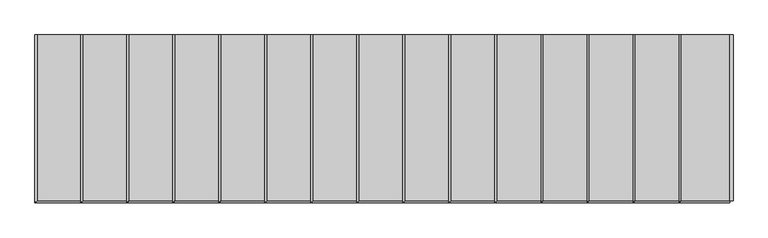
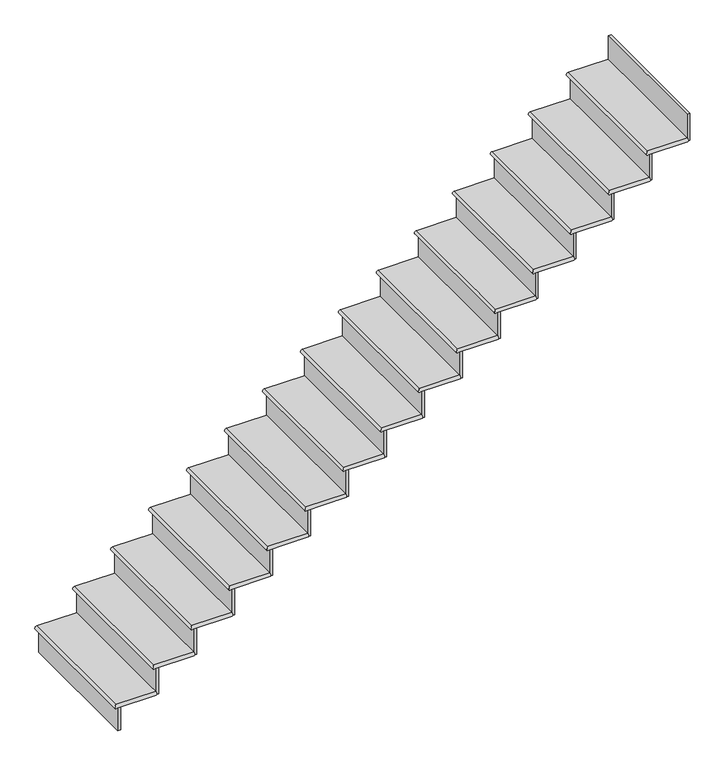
"""IFC4 building model written with IfcOpenShell, lengths in millimetres: stair flight geometry."""

from ifc_helpers import new_model, si_unit, frame, origin, place, context, project, spatial, circle_curve, ellipse_curve, faceted_brep, source, transform, mapped, element, save
from ifc_brep_helpers import plane_surface, cylinder_surface, advanced_brep


def stair_flight_f94ab1f9(model_context):
    return source(origin(), model_context, "Body", "SolidModel", [
        advanced_brep(
        [(-27218.1481446, 896.1568972, 165.1), (-27218.1481446, 896.1568972, 190.5), (-27218.1481446, 1810.5568972, 190.5), (-27218.1481446, 1810.5568972, 165.1), (-26951.4481446, 1810.5568972, 190.5), (-26951.4481446, 896.1568972, 190.5), (-26951.4481446, 1810.5568972, 165.1), (-26951.4481446, 896.1568972, 165.1)],
        [
            (0, 1, ellipse_curve(frame((-27218.1481446, 896.1568972, 177.8), z_axis=(-0.7071067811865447, 0.7071067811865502, 0.0), x_axis=(-0.7071067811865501, -0.7071067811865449, 0.0)), 17.9605122, 12.7)),
            (1, 2),
            (2, 3, circle_curve(frame((-27218.1481446, 1810.5568972, 177.8), z_axis=(0.0, -1.0, 0.0), x_axis=(1.0, 0.0, 0.0)), 12.7)),
            (3, 0),
            (4, 2),
            (1, 5),
            (5, 4),
            (3, 6),
            (6, 7),
            (7, 0),
            (4, 6),
            (5, 7, circle_curve(frame((-26951.4481446, 896.1568972, 177.8), z_axis=(1.0, 0.0, 0.0), x_axis=(0.0, 1.0, 0.0)), 12.7)),
        ],
        [
            cylinder_surface(frame((-27218.1481446, 896.1568972, 177.8), z_axis=(0.0, -1.0, 0.0), x_axis=(1.0, 0.0, 0.0)), 12.7),
            plane_surface(frame((-27230.8481446, 1810.5568972, 190.5), z_axis=(0.0, 0.0, 1.0), x_axis=(-1.0, 0.0, 0.0))),
            plane_surface(frame((-27230.8481446, 1810.5568972, 165.1), z_axis=(0.0, 0.0, -1.0), x_axis=(1.0, 0.0, 0.0))),
            plane_surface(frame((-26951.4481446, 1810.5568972, 190.5), z_axis=(0.0, 1.0, 0.0), x_axis=(0.0, 0.0, -1.0))),
            plane_surface(frame((-26951.4481446, 896.1568972, 190.5), z_axis=(1.0, 0.0, 0.0), x_axis=(0.0, 0.0, -1.0))),
            cylinder_surface(frame((-26951.4481446, 896.1568972, 177.8), z_axis=(1.0, 0.0, 0.0), x_axis=(0.0, 1.0, 0.0)), 12.7),
        ],
        [
            (0, [[1, 2, 3, 4]]),
            (1, [[5, -2, 6, 7]]),
            (2, [[8, 9, 10, -4]]),
            (3, [[-5, 11, -8, -3]]),
            (4, [[-7, 12, -9, -11]]),
            (5, [[-12, -6, -1, -10]]),
        ],
    ),
        faceted_brep([(-27205.4481446, 896.1568972, 165.1), (-27205.4481446, 896.1568972, 0.0), (-27186.3981446, 896.1568972, 0.0), (-27186.3981446, 896.1568972, 165.1), (-27205.4481446, 1810.5568972, 165.1), (-27186.3981446, 1810.5568972, 165.1), (-27186.3981446, 1810.5568972, 0.0), (-27205.4481446, 1810.5568972, 0.0)], [[[0, 1, 2, 3]], [[4, 5, 6, 7]], [[1, 0, 4, 7]], [[2, 1, 7, 6]], [[3, 2, 6, 5]], [[0, 3, 5, 4]]]),
        faceted_brep([(-26951.4481446, 896.1568972, 355.6), (-26951.4481446, 896.1568972, 165.1), (-26932.3981446, 896.1568972, 165.1), (-26932.3981446, 896.1568972, 355.6), (-26951.4481446, 1810.5568972, 355.6), (-26932.3981446, 1810.5568972, 355.6), (-26932.3981446, 1810.5568972, 165.1), (-26951.4481446, 1810.5568972, 165.1)], [[[0, 1, 2, 3]], [[4, 5, 6, 7]], [[1, 0, 4, 7]], [[2, 1, 7, 6]], [[3, 2, 6, 5]], [[0, 3, 5, 4]]]),
        advanced_brep(
        [(-26697.4481446, 1810.5568972, 381.0), (-26964.1481446, 1810.5568972, 381.0), (-26964.1481446, 896.1568972, 381.0), (-26697.4481446, 896.1568972, 381.0), (-26964.1481446, 1810.5568972, 355.6), (-26697.4481446, 1810.5568972, 355.6), (-26697.4481446, 896.1568972, 355.6), (-26964.1481446, 896.1568972, 355.6)],
        [
            (0, 1),
            (1, 2),
            (2, 3),
            (3, 0),
            (4, 5),
            (5, 6),
            (6, 7),
            (7, 4),
            (0, 5),
            (4, 1, circle_curve(frame((-26964.1481446, 1810.5568972, 368.3), z_axis=(0.0, 1.0, 0.0), x_axis=(1.0, 0.0, 0.0)), 12.7)),
            (3, 6, circle_curve(frame((-26697.4481446, 896.1568972, 368.3), z_axis=(1.0, 0.0, 0.0), x_axis=(0.0, 1.0, 0.0)), 12.7)),
            (7, 2, ellipse_curve(frame((-26964.1481446, 896.1568972, 368.3), z_axis=(-0.7071067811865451, 0.7071067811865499, 0.0), x_axis=(-0.7071067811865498, -0.7071067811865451, 0.0)), 17.9605122, 12.7)),
        ],
        [
            plane_surface(frame((-27230.8481446, 1810.5568972, 381.0), z_axis=(0.0, 0.0, 1.0), x_axis=(-1.0, 0.0, 0.0))),
            plane_surface(frame((-27230.8481446, 1810.5568972, 355.6), z_axis=(0.0, 0.0, -1.0), x_axis=(1.0, 0.0, 0.0))),
            plane_surface(frame((-26697.4481446, 1810.5568972, 381.0), z_axis=(0.0, 1.0, 0.0), x_axis=(0.0, 0.0, -1.0))),
            plane_surface(frame((-26697.4481446, 896.1568972, 381.0), z_axis=(1.0, 0.0, 0.0), x_axis=(0.0, 0.0, -1.0))),
            cylinder_surface(frame((-26964.1481446, 896.1568972, 368.3), z_axis=(0.0, -1.0, 0.0), x_axis=(1.0, 0.0, 0.0)), 12.7),
            cylinder_surface(frame((-26697.4481446, 896.1568972, 368.3), z_axis=(1.0, 0.0, 0.0), x_axis=(0.0, 1.0, 0.0)), 12.7),
        ],
        [
            (0, [[1, 2, 3, 4]]),
            (1, [[5, 6, 7, 8]]),
            (2, [[-1, 9, -5, 10]]),
            (3, [[-4, 11, -6, -9]]),
            (4, [[12, -2, -10, -8]]),
            (5, [[-11, -3, -12, -7]]),
        ],
    ),
        faceted_brep([(-26697.4481446, 896.1568972, 546.1), (-26697.4481446, 896.1568972, 355.6), (-26678.3981446, 896.1568972, 355.6), (-26678.3981446, 896.1568972, 546.1), (-26697.4481446, 1810.5568972, 546.1), (-26678.3981446, 1810.5568972, 546.1), (-26678.3981446, 1810.5568972, 355.6), (-26697.4481446, 1810.5568972, 355.6)], [[[0, 1, 2, 3]], [[4, 5, 6, 7]], [[1, 0, 4, 7]], [[2, 1, 7, 6]], [[3, 2, 6, 5]], [[0, 3, 5, 4]]]),
        advanced_brep(
        [(-26443.4481446, 1810.5568972, 571.5), (-26710.1481446, 1810.5568972, 571.5), (-26710.1481446, 896.1568972, 571.5), (-26443.4481446, 896.1568972, 571.5), (-26710.1481446, 1810.5568972, 546.1), (-26443.4481446, 1810.5568972, 546.1), (-26443.4481446, 896.1568972, 546.1), (-26710.1481446, 896.1568972, 546.1)],
        [
            (0, 1),
            (1, 2),
            (2, 3),
            (3, 0),
            (4, 5),
            (5, 6),
            (6, 7),
            (7, 4),
            (0, 5),
            (4, 1, circle_curve(frame((-26710.1481446, 1810.5568972, 558.8), z_axis=(0.0, 1.0, 0.0), x_axis=(1.0, 0.0, 0.0)), 12.7)),
            (3, 6, circle_curve(frame((-26443.4481446, 896.1568972, 558.8), z_axis=(1.0, 0.0, 0.0), x_axis=(0.0, 1.0, 0.0)), 12.7)),
            (7, 2, ellipse_curve(frame((-26710.1481446, 896.1568972, 558.8), z_axis=(-0.7071067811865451, 0.7071067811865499, 0.0), x_axis=(-0.7071067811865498, -0.7071067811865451, 0.0)), 17.9605122, 12.7)),
        ],
        [
            plane_surface(frame((-26976.8481446, 1810.5568972, 571.5), z_axis=(0.0, 0.0, 1.0), x_axis=(-1.0, 0.0, 0.0))),
            plane_surface(frame((-26976.8481446, 1810.5568972, 546.1), z_axis=(0.0, 0.0, -1.0), x_axis=(1.0, 0.0, 0.0))),
            plane_surface(frame((-26443.4481446, 1810.5568972, 571.5), z_axis=(0.0, 1.0, 0.0), x_axis=(0.0, 0.0, -1.0))),
            plane_surface(frame((-26443.4481446, 896.1568972, 571.5), z_axis=(1.0, 0.0, 0.0), x_axis=(0.0, 0.0, -1.0))),
            cylinder_surface(frame((-26710.1481446, 896.1568972, 558.8), z_axis=(0.0, -1.0, 0.0), x_axis=(1.0, 0.0, 0.0)), 12.7),
            cylinder_surface(frame((-26443.4481446, 896.1568972, 558.8), z_axis=(1.0, 0.0, 0.0), x_axis=(0.0, 1.0, 0.0)), 12.7),
        ],
        [
            (0, [[1, 2, 3, 4]]),
            (1, [[5, 6, 7, 8]]),
            (2, [[-1, 9, -5, 10]]),
            (3, [[-4, 11, -6, -9]]),
            (4, [[12, -2, -10, -8]]),
            (5, [[-11, -3, -12, -7]]),
        ],
    ),
        faceted_brep([(-26443.4481446, 896.1568972, 736.6), (-26443.4481446, 896.1568972, 546.1), (-26424.3981446, 896.1568972, 546.1), (-26424.3981446, 896.1568972, 736.6), (-26443.4481446, 1810.5568972, 736.6), (-26424.3981446, 1810.5568972, 736.6), (-26424.3981446, 1810.5568972, 546.1), (-26443.4481446, 1810.5568972, 546.1)], [[[0, 1, 2, 3]], [[4, 5, 6, 7]], [[1, 0, 4, 7]], [[2, 1, 7, 6]], [[3, 2, 6, 5]], [[0, 3, 5, 4]]]),
        advanced_brep(
        [(-26189.4481446, 1810.5568972, 762.0), (-26456.1481446, 1810.5568972, 762.0), (-26456.1481446, 896.1568972, 762.0), (-26189.4481446, 896.1568972, 762.0), (-26456.1481446, 1810.5568972, 736.6), (-26189.4481446, 1810.5568972, 736.6), (-26189.4481446, 896.1568972, 736.6), (-26456.1481446, 896.1568972, 736.6)],
        [
            (0, 1),
            (1, 2),
            (2, 3),
            (3, 0),
            (4, 5),
            (5, 6),
            (6, 7),
            (7, 4),
            (0, 5),
            (4, 1, circle_curve(frame((-26456.1481446, 1810.5568972, 749.3), z_axis=(0.0, 1.0, 0.0), x_axis=(1.0, 0.0, 0.0)), 12.7)),
            (3, 6, circle_curve(frame((-26189.4481446, 896.1568972, 749.3), z_axis=(1.0, 0.0, 0.0), x_axis=(0.0, 1.0, 0.0)), 12.7)),
            (7, 2, ellipse_curve(frame((-26456.1481446, 896.1568972, 749.3), z_axis=(-0.7071067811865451, 0.7071067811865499, 0.0), x_axis=(-0.7071067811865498, -0.7071067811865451, 0.0)), 17.9605122, 12.7)),
        ],
        [
            plane_surface(frame((-26722.8481446, 1810.5568972, 762.0), z_axis=(0.0, 0.0, 1.0), x_axis=(-1.0, 0.0, 0.0))),
            plane_surface(frame((-26722.8481446, 1810.5568972, 736.6), z_axis=(0.0, 0.0, -1.0), x_axis=(1.0, 0.0, 0.0))),
            plane_surface(frame((-26189.4481446, 1810.5568972, 762.0), z_axis=(0.0, 1.0, 0.0), x_axis=(0.0, 0.0, -1.0))),
            plane_surface(frame((-26189.4481446, 896.1568972, 762.0), z_axis=(1.0, 0.0, 0.0), x_axis=(0.0, 0.0, -1.0))),
            cylinder_surface(frame((-26456.1481446, 896.1568972, 749.3), z_axis=(0.0, -1.0, 0.0), x_axis=(1.0, 0.0, 0.0)), 12.7),
            cylinder_surface(frame((-26189.4481446, 896.1568972, 749.3), z_axis=(1.0, 0.0, 0.0), x_axis=(0.0, 1.0, 0.0)), 12.7),
        ],
        [
            (0, [[1, 2, 3, 4]]),
            (1, [[5, 6, 7, 8]]),
            (2, [[-1, 9, -5, 10]]),
            (3, [[-4, 11, -6, -9]]),
            (4, [[12, -2, -10, -8]]),
            (5, [[-11, -3, -12, -7]]),
        ],
    ),
        faceted_brep([(-26189.4481446, 896.1568972, 927.1), (-26189.4481446, 896.1568972, 736.6), (-26170.3981446, 896.1568972, 736.6), (-26170.3981446, 896.1568972, 927.1), (-26189.4481446, 1810.5568972, 927.1), (-26170.3981446, 1810.5568972, 927.1), (-26170.3981446, 1810.5568972, 736.6), (-26189.4481446, 1810.5568972, 736.6)], [[[0, 1, 2, 3]], [[4, 5, 6, 7]], [[1, 0, 4, 7]], [[2, 1, 7, 6]], [[3, 2, 6, 5]], [[0, 3, 5, 4]]]),
        advanced_brep(
        [(-25935.4481446, 1810.5568972, 952.5), (-26202.1481446, 1810.5568972, 952.5), (-26202.1481446, 896.1568972, 952.5), (-25935.4481446, 896.1568972, 952.5), (-26202.1481446, 1810.5568972, 927.1), (-25935.4481446, 1810.5568972, 927.1), (-25935.4481446, 896.1568972, 927.1), (-26202.1481446, 896.1568972, 927.1)],
        [
            (0, 1),
            (1, 2),
            (2, 3),
            (3, 0),
            (4, 5),
            (5, 6),
            (6, 7),
            (7, 4),
            (0, 5),
            (4, 1, circle_curve(frame((-26202.1481446, 1810.5568972, 939.8), z_axis=(0.0, 1.0, 0.0), x_axis=(1.0, 0.0, 0.0)), 12.7)),
            (3, 6, circle_curve(frame((-25935.4481446, 896.1568972, 939.8), z_axis=(1.0, 0.0, 0.0), x_axis=(0.0, 1.0, 0.0)), 12.7)),
            (7, 2, ellipse_curve(frame((-26202.1481446, 896.1568972, 939.8), z_axis=(-0.7071067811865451, 0.7071067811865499, 0.0), x_axis=(-0.7071067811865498, -0.7071067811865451, 0.0)), 17.9605122, 12.7)),
        ],
        [
            plane_surface(frame((-26468.8481446, 1810.5568972, 952.5), z_axis=(0.0, 0.0, 1.0), x_axis=(-1.0, 0.0, 0.0))),
            plane_surface(frame((-26468.8481446, 1810.5568972, 927.1), z_axis=(0.0, 0.0, -1.0), x_axis=(1.0, 0.0, 0.0))),
            plane_surface(frame((-25935.4481446, 1810.5568972, 952.5), z_axis=(0.0, 1.0, 0.0), x_axis=(0.0, 0.0, -1.0))),
            plane_surface(frame((-25935.4481446, 896.1568972, 952.5), z_axis=(1.0, 0.0, 0.0), x_axis=(0.0, 0.0, -1.0))),
            cylinder_surface(frame((-26202.1481446, 896.1568972, 939.8), z_axis=(0.0, -1.0, 0.0), x_axis=(1.0, 0.0, 0.0)), 12.7),
            cylinder_surface(frame((-25935.4481446, 896.1568972, 939.8), z_axis=(1.0, 0.0, 0.0), x_axis=(0.0, 1.0, 0.0)), 12.7),
        ],
        [
            (0, [[1, 2, 3, 4]]),
            (1, [[5, 6, 7, 8]]),
            (2, [[-1, 9, -5, 10]]),
            (3, [[-4, 11, -6, -9]]),
            (4, [[12, -2, -10, -8]]),
            (5, [[-11, -3, -12, -7]]),
        ],
    ),
        faceted_brep([(-25935.4481446, 896.1568972, 1117.6), (-25935.4481446, 896.1568972, 927.1), (-25916.3981446, 896.1568972, 927.1), (-25916.3981446, 896.1568972, 1117.6), (-25935.4481446, 1810.5568972, 1117.6), (-25916.3981446, 1810.5568972, 1117.6), (-25916.3981446, 1810.5568972, 927.1), (-25935.4481446, 1810.5568972, 927.1)], [[[0, 1, 2, 3]], [[4, 5, 6, 7]], [[1, 0, 4, 7]], [[2, 1, 7, 6]], [[3, 2, 6, 5]], [[0, 3, 5, 4]]]),
        advanced_brep(
        [(-25681.4481446, 1810.5568972, 1143.0), (-25948.1481446, 1810.5568972, 1143.0), (-25948.1481446, 896.1568972, 1143.0), (-25681.4481446, 896.1568972, 1143.0), (-25948.1481446, 1810.5568972, 1117.6), (-25681.4481446, 1810.5568972, 1117.6), (-25681.4481446, 896.1568972, 1117.6), (-25948.1481446, 896.1568972, 1117.6)],
        [
            (0, 1),
            (1, 2),
            (2, 3),
            (3, 0),
            (4, 5),
            (5, 6),
            (6, 7),
            (7, 4),
            (0, 5),
            (4, 1, circle_curve(frame((-25948.1481446, 1810.5568972, 1130.3), z_axis=(0.0, 1.0, 0.0), x_axis=(1.0, 0.0, 0.0)), 12.7)),
            (3, 6, circle_curve(frame((-25681.4481446, 896.1568972, 1130.3), z_axis=(1.0, 0.0, 0.0), x_axis=(0.0, 1.0, 0.0)), 12.7)),
            (7, 2, ellipse_curve(frame((-25948.1481446, 896.1568972, 1130.3), z_axis=(-0.7071067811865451, 0.7071067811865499, 0.0), x_axis=(-0.7071067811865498, -0.7071067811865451, 0.0)), 17.9605122, 12.7)),
        ],
        [
            plane_surface(frame((-26214.8481446, 1810.5568972, 1143.0), z_axis=(0.0, 0.0, 1.0), x_axis=(-1.0, 0.0, 0.0))),
            plane_surface(frame((-26214.8481446, 1810.5568972, 1117.6), z_axis=(0.0, 0.0, -1.0), x_axis=(1.0, 0.0, 0.0))),
            plane_surface(frame((-25681.4481446, 1810.5568972, 1143.0), z_axis=(0.0, 1.0, 0.0), x_axis=(0.0, 0.0, -1.0))),
            plane_surface(frame((-25681.4481446, 896.1568972, 1143.0), z_axis=(1.0, 0.0, 0.0), x_axis=(0.0, 0.0, -1.0))),
            cylinder_surface(frame((-25948.1481446, 896.1568972, 1130.3), z_axis=(0.0, -1.0, 0.0), x_axis=(1.0, 0.0, 0.0)), 12.7),
            cylinder_surface(frame((-25681.4481446, 896.1568972, 1130.3), z_axis=(1.0, 0.0, 0.0), x_axis=(0.0, 1.0, 0.0)), 12.7),
        ],
        [
            (0, [[1, 2, 3, 4]]),
            (1, [[5, 6, 7, 8]]),
            (2, [[-1, 9, -5, 10]]),
            (3, [[-4, 11, -6, -9]]),
            (4, [[12, -2, -10, -8]]),
            (5, [[-11, -3, -12, -7]]),
        ],
    ),
        faceted_brep([(-25681.4481446, 896.1568972, 1308.1), (-25681.4481446, 896.1568972, 1117.6), (-25662.3981446, 896.1568972, 1117.6), (-25662.3981446, 896.1568972, 1308.1), (-25681.4481446, 1810.5568972, 1308.1), (-25662.3981446, 1810.5568972, 1308.1), (-25662.3981446, 1810.5568972, 1117.6), (-25681.4481446, 1810.5568972, 1117.6)], [[[0, 1, 2, 3]], [[4, 5, 6, 7]], [[1, 0, 4, 7]], [[2, 1, 7, 6]], [[3, 2, 6, 5]], [[0, 3, 5, 4]]]),
        advanced_brep(
        [(-25427.4481446, 1810.5568972, 1333.5), (-25694.1481446, 1810.5568972, 1333.5), (-25694.1481446, 896.1568972, 1333.5), (-25427.4481446, 896.1568972, 1333.5), (-25694.1481446, 1810.5568972, 1308.1), (-25427.4481446, 1810.5568972, 1308.1), (-25427.4481446, 896.1568972, 1308.1), (-25694.1481446, 896.1568972, 1308.1)],
        [
            (0, 1),
            (1, 2),
            (2, 3),
            (3, 0),
            (4, 5),
            (5, 6),
            (6, 7),
            (7, 4),
            (0, 5),
            (4, 1, circle_curve(frame((-25694.1481446, 1810.5568972, 1320.8), z_axis=(0.0, 1.0, 0.0), x_axis=(1.0, 0.0, 0.0)), 12.7)),
            (3, 6, circle_curve(frame((-25427.4481446, 896.1568972, 1320.8), z_axis=(1.0, 0.0, 0.0), x_axis=(0.0, 1.0, 0.0)), 12.7)),
            (7, 2, ellipse_curve(frame((-25694.1481446, 896.1568972, 1320.8), z_axis=(-0.7071067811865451, 0.7071067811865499, 0.0), x_axis=(-0.7071067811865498, -0.7071067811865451, 0.0)), 17.9605122, 12.7)),
        ],
        [
            plane_surface(frame((-25960.8481446, 1810.5568972, 1333.5), z_axis=(0.0, 0.0, 1.0), x_axis=(-1.0, 0.0, 0.0))),
            plane_surface(frame((-25960.8481446, 1810.5568972, 1308.1), z_axis=(0.0, 0.0, -1.0), x_axis=(1.0, 0.0, 0.0))),
            plane_surface(frame((-25427.4481446, 1810.5568972, 1333.5), z_axis=(0.0, 1.0, 0.0), x_axis=(0.0, 0.0, -1.0))),
            plane_surface(frame((-25427.4481446, 896.1568972, 1333.5), z_axis=(1.0, 0.0, 0.0), x_axis=(0.0, 0.0, -1.0))),
            cylinder_surface(frame((-25694.1481446, 896.1568972, 1320.8), z_axis=(0.0, -1.0, 0.0), x_axis=(1.0, 0.0, 0.0)), 12.7),
            cylinder_surface(frame((-25427.4481446, 896.1568972, 1320.8), z_axis=(1.0, 0.0, 0.0), x_axis=(0.0, 1.0, 0.0)), 12.7),
        ],
        [
            (0, [[1, 2, 3, 4]]),
            (1, [[5, 6, 7, 8]]),
            (2, [[-1, 9, -5, 10]]),
            (3, [[-4, 11, -6, -9]]),
            (4, [[12, -2, -10, -8]]),
            (5, [[-11, -3, -12, -7]]),
        ],
    ),
        faceted_brep([(-25427.4481446, 896.1568972, 1498.6), (-25427.4481446, 896.1568972, 1308.1), (-25408.3981446, 896.1568972, 1308.1), (-25408.3981446, 896.1568972, 1498.6), (-25427.4481446, 1810.5568972, 1498.6), (-25408.3981446, 1810.5568972, 1498.6), (-25408.3981446, 1810.5568972, 1308.1), (-25427.4481446, 1810.5568972, 1308.1)], [[[0, 1, 2, 3]], [[4, 5, 6, 7]], [[1, 0, 4, 7]], [[2, 1, 7, 6]], [[3, 2, 6, 5]], [[0, 3, 5, 4]]]),
        advanced_brep(
        [(-25173.4481446, 1810.5568972, 1524.0), (-25440.1481446, 1810.5568972, 1524.0), (-25440.1481446, 896.1568972, 1524.0), (-25173.4481446, 896.1568972, 1524.0), (-25440.1481446, 1810.5568972, 1498.6), (-25173.4481446, 1810.5568972, 1498.6), (-25173.4481446, 896.1568972, 1498.6), (-25440.1481446, 896.1568972, 1498.6)],
        [
            (0, 1),
            (1, 2),
            (2, 3),
            (3, 0),
            (4, 5),
            (5, 6),
            (6, 7),
            (7, 4),
            (0, 5),
            (4, 1, circle_curve(frame((-25440.1481446, 1810.5568972, 1511.3), z_axis=(0.0, 1.0, 0.0), x_axis=(1.0, 0.0, 0.0)), 12.7)),
            (3, 6, circle_curve(frame((-25173.4481446, 896.1568972, 1511.3), z_axis=(1.0, 0.0, 0.0), x_axis=(0.0, 1.0, 0.0)), 12.7)),
            (7, 2, ellipse_curve(frame((-25440.1481446, 896.1568972, 1511.3), z_axis=(-0.7071067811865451, 0.7071067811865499, 0.0), x_axis=(-0.7071067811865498, -0.7071067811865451, 0.0)), 17.9605122, 12.7)),
        ],
        [
            plane_surface(frame((-25706.8481446, 1810.5568972, 1524.0), z_axis=(0.0, 0.0, 1.0), x_axis=(-1.0, 0.0, 0.0))),
            plane_surface(frame((-25706.8481446, 1810.5568972, 1498.6), z_axis=(0.0, 0.0, -1.0), x_axis=(1.0, 0.0, 0.0))),
            plane_surface(frame((-25173.4481446, 1810.5568972, 1524.0), z_axis=(0.0, 1.0, 0.0), x_axis=(0.0, 0.0, -1.0))),
            plane_surface(frame((-25173.4481446, 896.1568972, 1524.0), z_axis=(1.0, 0.0, 0.0), x_axis=(0.0, 0.0, -1.0))),
            cylinder_surface(frame((-25440.1481446, 896.1568972, 1511.3), z_axis=(0.0, -1.0, 0.0), x_axis=(1.0, 0.0, 0.0)), 12.7),
            cylinder_surface(frame((-25173.4481446, 896.1568972, 1511.3), z_axis=(1.0, 0.0, 0.0), x_axis=(0.0, 1.0, 0.0)), 12.7),
        ],
        [
            (0, [[1, 2, 3, 4]]),
            (1, [[5, 6, 7, 8]]),
            (2, [[-1, 9, -5, 10]]),
            (3, [[-4, 11, -6, -9]]),
            (4, [[12, -2, -10, -8]]),
            (5, [[-11, -3, -12, -7]]),
        ],
    ),
        faceted_brep([(-25173.4481446, 896.1568972, 1689.1), (-25173.4481446, 896.1568972, 1498.6), (-25154.3981446, 896.1568972, 1498.6), (-25154.3981446, 896.1568972, 1689.1), (-25173.4481446, 1810.5568972, 1689.1), (-25154.3981446, 1810.5568972, 1689.1), (-25154.3981446, 1810.5568972, 1498.6), (-25173.4481446, 1810.5568972, 1498.6)], [[[0, 1, 2, 3]], [[4, 5, 6, 7]], [[1, 0, 4, 7]], [[2, 1, 7, 6]], [[3, 2, 6, 5]], [[0, 3, 5, 4]]]),
        advanced_brep(
        [(-24919.4481446, 1810.5568972, 1714.5), (-25186.1481446, 1810.5568972, 1714.5), (-25186.1481446, 896.1568972, 1714.5), (-24919.4481446, 896.1568972, 1714.5), (-25186.1481446, 1810.5568972, 1689.1), (-24919.4481446, 1810.5568972, 1689.1), (-24919.4481446, 896.1568972, 1689.1), (-25186.1481446, 896.1568972, 1689.1)],
        [
            (0, 1),
            (1, 2),
            (2, 3),
            (3, 0),
            (4, 5),
            (5, 6),
            (6, 7),
            (7, 4),
            (0, 5),
            (4, 1, circle_curve(frame((-25186.1481446, 1810.5568972, 1701.8), z_axis=(0.0, 1.0, 0.0), x_axis=(1.0, 0.0, 0.0)), 12.7)),
            (3, 6, circle_curve(frame((-24919.4481446, 896.1568972, 1701.8), z_axis=(1.0, 0.0, 0.0), x_axis=(0.0, 1.0, 0.0)), 12.7)),
            (7, 2, ellipse_curve(frame((-25186.1481446, 896.1568972, 1701.8), z_axis=(-0.7071067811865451, 0.7071067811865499, 0.0), x_axis=(-0.7071067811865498, -0.7071067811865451, 0.0)), 17.9605122, 12.7)),
        ],
        [
            plane_surface(frame((-25452.8481446, 1810.5568972, 1714.5), z_axis=(0.0, 0.0, 1.0), x_axis=(-1.0, 0.0, 0.0))),
            plane_surface(frame((-25452.8481446, 1810.5568972, 1689.1), z_axis=(0.0, 0.0, -1.0), x_axis=(1.0, 0.0, 0.0))),
            plane_surface(frame((-24919.4481446, 1810.5568972, 1714.5), z_axis=(0.0, 1.0, 0.0), x_axis=(0.0, 0.0, -1.0))),
            plane_surface(frame((-24919.4481446, 896.1568972, 1714.5), z_axis=(1.0, 0.0, 0.0), x_axis=(0.0, 0.0, -1.0))),
            cylinder_surface(frame((-25186.1481446, 896.1568972, 1701.8), z_axis=(0.0, -1.0, 0.0), x_axis=(1.0, 0.0, 0.0)), 12.7),
            cylinder_surface(frame((-24919.4481446, 896.1568972, 1701.8), z_axis=(1.0, 0.0, 0.0), x_axis=(0.0, 1.0, 0.0)), 12.7),
        ],
        [
            (0, [[1, 2, 3, 4]]),
            (1, [[5, 6, 7, 8]]),
            (2, [[-1, 9, -5, 10]]),
            (3, [[-4, 11, -6, -9]]),
            (4, [[12, -2, -10, -8]]),
            (5, [[-11, -3, -12, -7]]),
        ],
    ),
        faceted_brep([(-24919.4481446, 896.1568972, 1879.6), (-24919.4481446, 896.1568972, 1689.1), (-24900.3981446, 896.1568972, 1689.1), (-24900.3981446, 896.1568972, 1879.6), (-24919.4481446, 1810.5568972, 1879.6), (-24900.3981446, 1810.5568972, 1879.6), (-24900.3981446, 1810.5568972, 1689.1), (-24919.4481446, 1810.5568972, 1689.1)], [[[0, 1, 2, 3]], [[4, 5, 6, 7]], [[1, 0, 4, 7]], [[2, 1, 7, 6]], [[3, 2, 6, 5]], [[0, 3, 5, 4]]]),
        advanced_brep(
        [(-24665.4481446, 1810.5568972, 1905.0), (-24932.1481446, 1810.5568972, 1905.0), (-24932.1481446, 896.1568972, 1905.0), (-24665.4481446, 896.1568972, 1905.0), (-24932.1481446, 1810.5568972, 1879.6), (-24665.4481446, 1810.5568972, 1879.6), (-24665.4481446, 896.1568972, 1879.6), (-24932.1481446, 896.1568972, 1879.6)],
        [
            (0, 1),
            (1, 2),
            (2, 3),
            (3, 0),
            (4, 5),
            (5, 6),
            (6, 7),
            (7, 4),
            (0, 5),
            (4, 1, circle_curve(frame((-24932.1481446, 1810.5568972, 1892.3), z_axis=(0.0, 1.0, 0.0), x_axis=(1.0, 0.0, 0.0)), 12.7)),
            (3, 6, circle_curve(frame((-24665.4481446, 896.1568972, 1892.3), z_axis=(1.0, 0.0, 0.0), x_axis=(0.0, 1.0, 0.0)), 12.7)),
            (7, 2, ellipse_curve(frame((-24932.1481446, 896.1568972, 1892.3), z_axis=(-0.7071067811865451, 0.7071067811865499, 0.0), x_axis=(-0.7071067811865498, -0.7071067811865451, 0.0)), 17.9605122, 12.7)),
        ],
        [
            plane_surface(frame((-25198.8481446, 1810.5568972, 1905.0), z_axis=(0.0, 0.0, 1.0), x_axis=(-1.0, 0.0, 0.0))),
            plane_surface(frame((-25198.8481446, 1810.5568972, 1879.6), z_axis=(0.0, 0.0, -1.0), x_axis=(1.0, 0.0, 0.0))),
            plane_surface(frame((-24665.4481446, 1810.5568972, 1905.0), z_axis=(0.0, 1.0, 0.0), x_axis=(0.0, 0.0, -1.0))),
            plane_surface(frame((-24665.4481446, 896.1568972, 1905.0), z_axis=(1.0, 0.0, 0.0), x_axis=(0.0, 0.0, -1.0))),
            cylinder_surface(frame((-24932.1481446, 896.1568972, 1892.3), z_axis=(0.0, -1.0, 0.0), x_axis=(1.0, 0.0, 0.0)), 12.7),
            cylinder_surface(frame((-24665.4481446, 896.1568972, 1892.3), z_axis=(1.0, 0.0, 0.0), x_axis=(0.0, 1.0, 0.0)), 12.7),
        ],
        [
            (0, [[1, 2, 3, 4]]),
            (1, [[5, 6, 7, 8]]),
            (2, [[-1, 9, -5, 10]]),
            (3, [[-4, 11, -6, -9]]),
            (4, [[12, -2, -10, -8]]),
            (5, [[-11, -3, -12, -7]]),
        ],
    ),
        faceted_brep([(-24665.4481446, 896.1568972, 2070.1), (-24665.4481446, 896.1568972, 1879.6), (-24646.3981446, 896.1568972, 1879.6), (-24646.3981446, 896.1568972, 2070.1), (-24665.4481446, 1810.5568972, 2070.1), (-24646.3981446, 1810.5568972, 2070.1), (-24646.3981446, 1810.5568972, 1879.6), (-24665.4481446, 1810.5568972, 1879.6)], [[[0, 1, 2, 3]], [[4, 5, 6, 7]], [[1, 0, 4, 7]], [[2, 1, 7, 6]], [[3, 2, 6, 5]], [[0, 3, 5, 4]]]),
        advanced_brep(
        [(-24411.4481446, 1810.5568972, 2095.5), (-24678.1481446, 1810.5568972, 2095.5), (-24678.1481446, 896.1568972, 2095.5), (-24411.4481446, 896.1568972, 2095.5), (-24678.1481446, 1810.5568972, 2070.1), (-24411.4481446, 1810.5568972, 2070.1), (-24411.4481446, 896.1568972, 2070.1), (-24678.1481446, 896.1568972, 2070.1)],
        [
            (0, 1),
            (1, 2),
            (2, 3),
            (3, 0),
            (4, 5),
            (5, 6),
            (6, 7),
            (7, 4),
            (0, 5),
            (4, 1, circle_curve(frame((-24678.1481446, 1810.5568972, 2082.8), z_axis=(0.0, 1.0, 0.0), x_axis=(1.0, 0.0, 0.0)), 12.7)),
            (3, 6, circle_curve(frame((-24411.4481446, 896.1568972, 2082.8), z_axis=(1.0, 0.0, 0.0), x_axis=(0.0, 1.0, 0.0)), 12.7)),
            (7, 2, ellipse_curve(frame((-24678.1481446, 896.1568972, 2082.8), z_axis=(-0.7071067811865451, 0.7071067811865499, 0.0), x_axis=(-0.7071067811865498, -0.7071067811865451, 0.0)), 17.9605122, 12.7)),
        ],
        [
            plane_surface(frame((-24944.8481446, 1810.5568972, 2095.5), z_axis=(0.0, 0.0, 1.0), x_axis=(-1.0, 0.0, 0.0))),
            plane_surface(frame((-24944.8481446, 1810.5568972, 2070.1), z_axis=(0.0, 0.0, -1.0), x_axis=(1.0, 0.0, 0.0))),
            plane_surface(frame((-24411.4481446, 1810.5568972, 2095.5), z_axis=(0.0, 1.0, 0.0), x_axis=(0.0, 0.0, -1.0))),
            plane_surface(frame((-24411.4481446, 896.1568972, 2095.5), z_axis=(1.0, 0.0, 0.0), x_axis=(0.0, 0.0, -1.0))),
            cylinder_surface(frame((-24678.1481446, 896.1568972, 2082.8), z_axis=(0.0, -1.0, 0.0), x_axis=(1.0, 0.0, 0.0)), 12.7),
            cylinder_surface(frame((-24411.4481446, 896.1568972, 2082.8), z_axis=(1.0, 0.0, 0.0), x_axis=(0.0, 1.0, 0.0)), 12.7),
        ],
        [
            (0, [[1, 2, 3, 4]]),
            (1, [[5, 6, 7, 8]]),
            (2, [[-1, 9, -5, 10]]),
            (3, [[-4, 11, -6, -9]]),
            (4, [[12, -2, -10, -8]]),
            (5, [[-11, -3, -12, -7]]),
        ],
    ),
        faceted_brep([(-24411.4481446, 896.1568972, 2260.6), (-24411.4481446, 896.1568972, 2070.1), (-24392.3981446, 896.1568972, 2070.1), (-24392.3981446, 896.1568972, 2260.6), (-24411.4481446, 1810.5568972, 2260.6), (-24392.3981446, 1810.5568972, 2260.6), (-24392.3981446, 1810.5568972, 2070.1), (-24411.4481446, 1810.5568972, 2070.1)], [[[0, 1, 2, 3]], [[4, 5, 6, 7]], [[1, 0, 4, 7]], [[2, 1, 7, 6]], [[3, 2, 6, 5]], [[0, 3, 5, 4]]]),
        advanced_brep(
        [(-24157.4481446, 1810.5568972, 2286.0), (-24424.1481446, 1810.5568972, 2286.0), (-24424.1481446, 896.1568972, 2286.0), (-24157.4481446, 896.1568972, 2286.0), (-24424.1481446, 1810.5568972, 2260.6), (-24157.4481446, 1810.5568972, 2260.6), (-24157.4481446, 896.1568972, 2260.6), (-24424.1481446, 896.1568972, 2260.6)],
        [
            (0, 1),
            (1, 2),
            (2, 3),
            (3, 0),
            (4, 5),
            (5, 6),
            (6, 7),
            (7, 4),
            (0, 5),
            (4, 1, circle_curve(frame((-24424.1481446, 1810.5568972, 2273.3), z_axis=(0.0, 1.0, 0.0), x_axis=(1.0, 0.0, 0.0)), 12.7)),
            (3, 6, circle_curve(frame((-24157.4481446, 896.1568972, 2273.3), z_axis=(1.0, 0.0, 0.0), x_axis=(0.0, 1.0, 0.0)), 12.7)),
            (7, 2, ellipse_curve(frame((-24424.1481446, 896.1568972, 2273.3), z_axis=(-0.7071067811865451, 0.7071067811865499, 0.0), x_axis=(-0.7071067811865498, -0.7071067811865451, 0.0)), 17.9605122, 12.7)),
        ],
        [
            plane_surface(frame((-24690.8481446, 1810.5568972, 2286.0), z_axis=(0.0, 0.0, 1.0), x_axis=(-1.0, 0.0, 0.0))),
            plane_surface(frame((-24690.8481446, 1810.5568972, 2260.6), z_axis=(0.0, 0.0, -1.0), x_axis=(1.0, 0.0, 0.0))),
            plane_surface(frame((-24157.4481446, 1810.5568972, 2286.0), z_axis=(0.0, 1.0, 0.0), x_axis=(0.0, 0.0, -1.0))),
            plane_surface(frame((-24157.4481446, 896.1568972, 2286.0), z_axis=(1.0, 0.0, 0.0), x_axis=(0.0, 0.0, -1.0))),
            cylinder_surface(frame((-24424.1481446, 896.1568972, 2273.3), z_axis=(0.0, -1.0, 0.0), x_axis=(1.0, 0.0, 0.0)), 12.7),
            cylinder_surface(frame((-24157.4481446, 896.1568972, 2273.3), z_axis=(1.0, 0.0, 0.0), x_axis=(0.0, 1.0, 0.0)), 12.7),
        ],
        [
            (0, [[1, 2, 3, 4]]),
            (1, [[5, 6, 7, 8]]),
            (2, [[-1, 9, -5, 10]]),
            (3, [[-4, 11, -6, -9]]),
            (4, [[12, -2, -10, -8]]),
            (5, [[-11, -3, -12, -7]]),
        ],
    ),
        faceted_brep([(-24157.4481446, 896.1568972, 2451.1), (-24157.4481446, 896.1568972, 2260.6), (-24138.3981446, 896.1568972, 2260.6), (-24138.3981446, 896.1568972, 2451.1), (-24157.4481446, 1810.5568972, 2451.1), (-24138.3981446, 1810.5568972, 2451.1), (-24138.3981446, 1810.5568972, 2260.6), (-24157.4481446, 1810.5568972, 2260.6)], [[[0, 1, 2, 3]], [[4, 5, 6, 7]], [[1, 0, 4, 7]], [[2, 1, 7, 6]], [[3, 2, 6, 5]], [[0, 3, 5, 4]]]),
        advanced_brep(
        [(-23903.4481446, 1810.5568972, 2476.5), (-24170.1481446, 1810.5568972, 2476.5), (-24170.1481446, 896.1568972, 2476.5), (-23903.4481446, 896.1568972, 2476.5), (-24170.1481446, 1810.5568972, 2451.1), (-23903.4481446, 1810.5568972, 2451.1), (-23903.4481446, 896.1568972, 2451.1), (-24170.1481446, 896.1568972, 2451.1)],
        [
            (0, 1),
            (1, 2),
            (2, 3),
            (3, 0),
            (4, 5),
            (5, 6),
            (6, 7),
            (7, 4),
            (0, 5),
            (4, 1, circle_curve(frame((-24170.1481446, 1810.5568972, 2463.8), z_axis=(0.0, 1.0, 0.0), x_axis=(1.0, 0.0, 0.0)), 12.7)),
            (3, 6, circle_curve(frame((-23903.4481446, 896.1568972, 2463.8), z_axis=(1.0, 0.0, 0.0), x_axis=(0.0, 1.0, 0.0)), 12.7)),
            (7, 2, ellipse_curve(frame((-24170.1481446, 896.1568972, 2463.8), z_axis=(-0.7071067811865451, 0.7071067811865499, 0.0), x_axis=(-0.7071067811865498, -0.7071067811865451, 0.0)), 17.9605122, 12.7)),
        ],
        [
            plane_surface(frame((-24436.8481446, 1810.5568972, 2476.5), z_axis=(0.0, 0.0, 1.0), x_axis=(-1.0, 0.0, 0.0))),
            plane_surface(frame((-24436.8481446, 1810.5568972, 2451.1), z_axis=(0.0, 0.0, -1.0), x_axis=(1.0, 0.0, 0.0))),
            plane_surface(frame((-23903.4481446, 1810.5568972, 2476.5), z_axis=(0.0, 1.0, 0.0), x_axis=(0.0, 0.0, -1.0))),
            plane_surface(frame((-23903.4481446, 896.1568972, 2476.5), z_axis=(1.0, 0.0, 0.0), x_axis=(0.0, 0.0, -1.0))),
            cylinder_surface(frame((-24170.1481446, 896.1568972, 2463.8), z_axis=(0.0, -1.0, 0.0), x_axis=(1.0, 0.0, 0.0)), 12.7),
            cylinder_surface(frame((-23903.4481446, 896.1568972, 2463.8), z_axis=(1.0, 0.0, 0.0), x_axis=(0.0, 1.0, 0.0)), 12.7),
        ],
        [
            (0, [[1, 2, 3, 4]]),
            (1, [[5, 6, 7, 8]]),
            (2, [[-1, 9, -5, 10]]),
            (3, [[-4, 11, -6, -9]]),
            (4, [[12, -2, -10, -8]]),
            (5, [[-11, -3, -12, -7]]),
        ],
    ),
        faceted_brep([(-23903.4481446, 896.1568972, 2641.6), (-23903.4481446, 896.1568972, 2451.1), (-23884.3981446, 896.1568972, 2451.1), (-23884.3981446, 896.1568972, 2641.6), (-23903.4481446, 1810.5568972, 2641.6), (-23884.3981446, 1810.5568972, 2641.6), (-23884.3981446, 1810.5568972, 2451.1), (-23903.4481446, 1810.5568972, 2451.1)], [[[0, 1, 2, 3]], [[4, 5, 6, 7]], [[1, 0, 4, 7]], [[2, 1, 7, 6]], [[3, 2, 6, 5]], [[0, 3, 5, 4]]]),
        advanced_brep(
        [(-23649.4481446, 1810.5568972, 2667.0), (-23916.1481446, 1810.5568972, 2667.0), (-23916.1481446, 896.1568972, 2667.0), (-23649.4481446, 896.1568972, 2667.0), (-23916.1481446, 1810.5568972, 2641.6), (-23649.4481446, 1810.5568972, 2641.6), (-23649.4481446, 896.1568972, 2641.6), (-23916.1481446, 896.1568972, 2641.6)],
        [
            (0, 1),
            (1, 2),
            (2, 3),
            (3, 0),
            (4, 5),
            (5, 6),
            (6, 7),
            (7, 4),
            (0, 5),
            (4, 1, circle_curve(frame((-23916.1481446, 1810.5568972, 2654.3), z_axis=(0.0, 1.0, 0.0), x_axis=(1.0, 0.0, 0.0)), 12.7)),
            (3, 6, circle_curve(frame((-23649.4481446, 896.1568972, 2654.3), z_axis=(1.0, 0.0, 0.0), x_axis=(0.0, 1.0, 0.0)), 12.7)),
            (7, 2, ellipse_curve(frame((-23916.1481446, 896.1568972, 2654.3), z_axis=(-0.7071067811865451, 0.7071067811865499, 0.0), x_axis=(-0.7071067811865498, -0.7071067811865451, 0.0)), 17.9605122, 12.7)),
        ],
        [
            plane_surface(frame((-24182.8481446, 1810.5568972, 2667.0), z_axis=(0.0, 0.0, 1.0), x_axis=(-1.0, 0.0, 0.0))),
            plane_surface(frame((-24182.8481446, 1810.5568972, 2641.6), z_axis=(0.0, 0.0, -1.0), x_axis=(1.0, 0.0, 0.0))),
            plane_surface(frame((-23649.4481446, 1810.5568972, 2667.0), z_axis=(0.0, 1.0, 0.0), x_axis=(0.0, 0.0, -1.0))),
            plane_surface(frame((-23649.4481446, 896.1568972, 2667.0), z_axis=(1.0, 0.0, 0.0), x_axis=(0.0, 0.0, -1.0))),
            cylinder_surface(frame((-23916.1481446, 896.1568972, 2654.3), z_axis=(0.0, -1.0, 0.0), x_axis=(1.0, 0.0, 0.0)), 12.7),
            cylinder_surface(frame((-23649.4481446, 896.1568972, 2654.3), z_axis=(1.0, 0.0, 0.0), x_axis=(0.0, 1.0, 0.0)), 12.7),
        ],
        [
            (0, [[1, 2, 3, 4]]),
            (1, [[5, 6, 7, 8]]),
            (2, [[-1, 9, -5, 10]]),
            (3, [[-4, 11, -6, -9]]),
            (4, [[12, -2, -10, -8]]),
            (5, [[-11, -3, -12, -7]]),
        ],
    ),
        faceted_brep([(-23649.4481446, 896.1568972, 2832.1), (-23649.4481446, 896.1568972, 2641.6), (-23630.3981446, 896.1568972, 2641.6), (-23630.3981446, 896.1568972, 2832.1), (-23649.4481446, 1810.5568972, 2832.1), (-23630.3981446, 1810.5568972, 2832.1), (-23630.3981446, 1810.5568972, 2641.6), (-23649.4481446, 1810.5568972, 2641.6)], [[[0, 1, 2, 3]], [[4, 5, 6, 7]], [[1, 0, 4, 7]], [[2, 1, 7, 6]], [[3, 2, 6, 5]], [[0, 3, 5, 4]]]),
        faceted_brep([(-23395.4481446, 896.1568972, 3022.6), (-23395.4481446, 896.1568972, 2832.1), (-23376.3981446, 896.1568972, 2832.1), (-23376.3981446, 896.1568972, 3022.6), (-23395.4481446, 1810.5568972, 3022.6), (-23376.3981446, 1810.5568972, 3022.6), (-23376.3981446, 1810.5568972, 2832.1), (-23395.4481446, 1810.5568972, 2832.1)], [[[0, 1, 2, 3]], [[4, 5, 6, 7]], [[1, 0, 4, 7]], [[2, 1, 7, 6]], [[3, 2, 6, 5]], [[0, 3, 5, 4]]]),
        advanced_brep(
        [(-23395.4481446, 1810.5568972, 2857.5), (-23662.1481446, 1810.5568972, 2857.5), (-23662.1481446, 896.1568972, 2857.5), (-23395.4481446, 896.1568972, 2857.5), (-23662.1481446, 1810.5568972, 2832.1), (-23395.4481446, 1810.5568972, 2832.1), (-23395.4481446, 896.1568972, 2832.1), (-23662.1481446, 896.1568972, 2832.1)],
        [
            (0, 1),
            (1, 2),
            (2, 3),
            (3, 0),
            (4, 5),
            (5, 6),
            (6, 7),
            (7, 4),
            (0, 5),
            (4, 1, circle_curve(frame((-23662.1481446, 1810.5568972, 2844.8), z_axis=(0.0, 1.0, 0.0), x_axis=(1.0, 0.0, 0.0)), 12.7)),
            (3, 6, circle_curve(frame((-23395.4481446, 896.1568972, 2844.8), z_axis=(1.0, 0.0, 0.0), x_axis=(0.0, 1.0, 0.0)), 12.7)),
            (7, 2, ellipse_curve(frame((-23662.1481446, 896.1568972, 2844.8), z_axis=(-0.7071067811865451, 0.7071067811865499, 0.0), x_axis=(-0.7071067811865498, -0.7071067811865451, 0.0)), 17.9605122, 12.7)),
        ],
        [
            plane_surface(frame((-23928.8481446, 1810.5568972, 2857.5), z_axis=(0.0, 0.0, 1.0), x_axis=(-1.0, 0.0, 0.0))),
            plane_surface(frame((-23928.8481446, 1810.5568972, 2832.1), z_axis=(0.0, 0.0, -1.0), x_axis=(1.0, 0.0, 0.0))),
            plane_surface(frame((-23395.4481446, 1810.5568972, 2857.5), z_axis=(0.0, 1.0, 0.0), x_axis=(0.0, 0.0, -1.0))),
            plane_surface(frame((-23395.4481446, 896.1568972, 2857.5), z_axis=(1.0, 0.0, 0.0), x_axis=(0.0, 0.0, -1.0))),
            cylinder_surface(frame((-23662.1481446, 896.1568972, 2844.8), z_axis=(0.0, -1.0, 0.0), x_axis=(1.0, 0.0, 0.0)), 12.7),
            cylinder_surface(frame((-23395.4481446, 896.1568972, 2844.8), z_axis=(1.0, 0.0, 0.0), x_axis=(0.0, 1.0, 0.0)), 12.7),
        ],
        [
            (0, [[1, 2, 3, 4]]),
            (1, [[5, 6, 7, 8]]),
            (2, [[-1, 9, -5, 10]]),
            (3, [[-4, 11, -6, -9]]),
            (4, [[12, -2, -10, -8]]),
            (5, [[-11, -3, -12, -7]]),
        ],
    ),
    ])


if __name__ == "__main__":
    model = new_model("IFC4")
    model_context = context("Model", 3, world=origin())
    ifc_project = project(units=[si_unit("LENGTHUNIT", "METRE", prefix="MILLI")], contexts=[model_context])
    site = spatial("IfcSite", under=ifc_project)
    building = spatial("IfcBuilding", under=site)
    placement = place(None, origin())
    stair_flight_shape = stair_flight_f94ab1f9(model_context)
    element("IfcStairFlight", 1, ObjectType="Unassigned Steps with 1\" Tread 1\" Nosing 3/4\" Riser (2)", at=placement, inside=building, context=model_context, shape_type="MappedRepresentation", body=[
        mapped(stair_flight_shape, transform((0.0, 0.0, 0.0), x_axis=(1.0, 0.0, 0.0), y_axis=(0.0, 1.0, 0.0), z_axis=(0.0, 0.0, 1.0))),
    ])
    save(model, "model.ifc")
